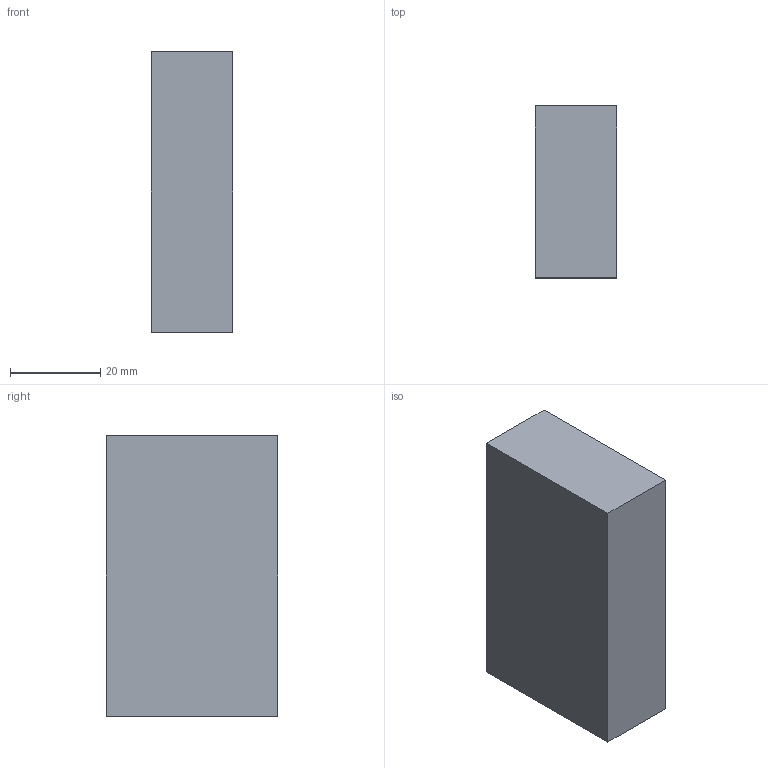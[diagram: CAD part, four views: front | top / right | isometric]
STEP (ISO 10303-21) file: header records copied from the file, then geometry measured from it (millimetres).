
FILE_DESCRIPTION(('Open CASCADE Model'),'2;1');
FILE_NAME('Open CASCADE Shape Model','2026-09-19T23:46:40',('Author'),( 'Open CASCADE'),'Open CASCADE STEP processor 7.9','Open CASCADE 7.9' ,'Unknown');
FILE_SCHEMA(('AUTOMOTIVE_DESIGN { 1 0 10303 214 1 1 1 1 }'));
Length unit declared in the file: millimetre
Products named in the file (1): Open CASCADE STEP translator 7.9 79
Bounding box: 18 x 38 x 62 mm (x, y, z)
Volume: 42408 mm3; surface area: 8312 mm2
Topology: 1 solids, 1 shells, 6 faces, 12 edges, 8 vertices
Faces by surface type: plane 6
Entity records: 322 total; most frequent: CARTESIAN_POINT 51, DIRECTION 50, LINE 36, VECTOR 36, ORIENTED_EDGE 24, PCURVE 24, DEFINITIONAL_REPRESENTATION 24, EDGE_CURVE 12
